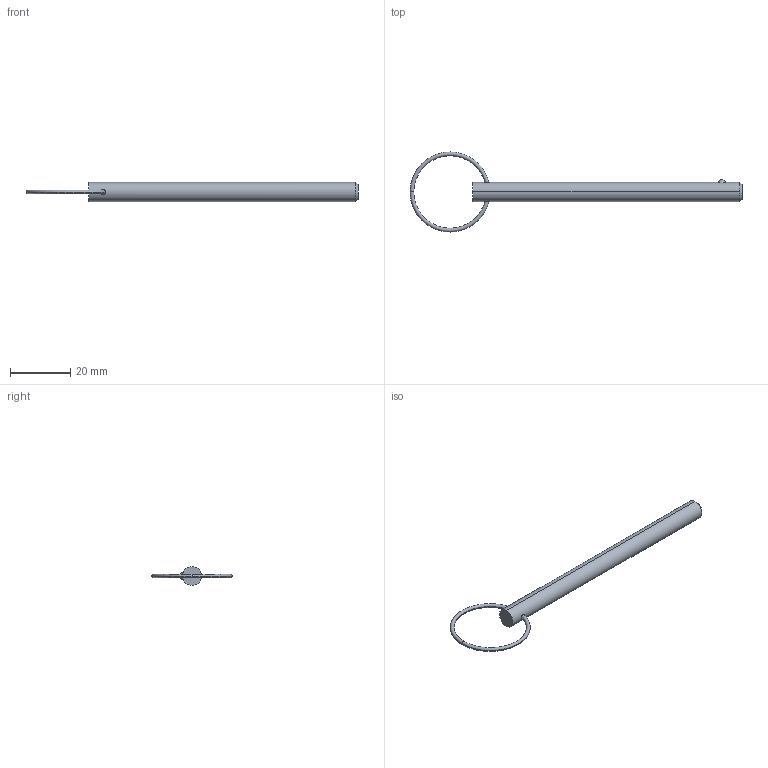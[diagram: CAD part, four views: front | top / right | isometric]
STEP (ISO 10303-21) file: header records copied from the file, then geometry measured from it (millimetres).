
FILE_DESCRIPTION (( 'STEP AP203' ), '1' );
FILE_NAME ('33012.W2530.step', '2024-11-01T14:07:27', ( '' ), ( '' ), 'SwSTEP 2.0', 'SolidWorks 2019', '' );
FILE_SCHEMA (( 'CONFIG_CONTROL_DESIGN' ));
Length unit declared in the file: millimetre
Products named in the file (3): 33012.W2530; Part2_33012.W2530; Part1_33012.W2530
Assembly tree (2 placements, depth 2):
  33012.W2530
    Part1_33012.W2530
    Part2_33012.W2530
Bounding box: 110.57 x 26.67 x 6.35 mm (x, y, z)
Volume: 2926.4 mm3; surface area: 2191.9 mm2
Topology: 2 solids, 2 shells, 16 faces, 31 edges, 18 vertices
Faces by surface type: torus 8, sphere 2, cone 2, cylinder 2, plane 2
Entity records: 811 total; most frequent: CARTESIAN_POINT 168, DIRECTION 88, ORIENTED_EDGE 62, AXIS2_PLACEMENT_3D 42, EDGE_CURVE 31, PERSON_AND_ORGANIZATION 26, CIRCLE 21, EDGE_LOOP 19
